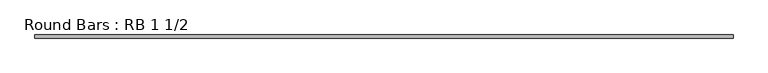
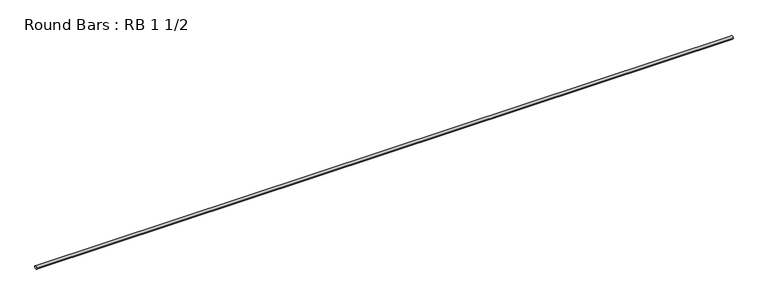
"""IFC4 building model written with IfcOpenShell, lengths in millimetres: member geometry, Round Bars : RB 1 1/2."""

from ifc_helpers import new_model, si_unit, point, frame, origin, origin_2d, place, context, project, spatial, circle_curve, trimmed, segment, composite_curve, outline, extrude, source, transform, mapped, element, save


def round_bars_rb_1_1_2_3159af7d(model_context):
    return source(origin(), model_context, "Body", "SweptSolid", [
        extrude(outline(composite_curve([segment(trimmed(circle_curve(origin_2d(), 19.05), [point((19.05, 0.0))], [point((-19.05, 0.0))], False, "CARTESIAN"), True, "CONTINUOUS"), segment(trimmed(circle_curve(origin_2d(), 19.05), [point((-19.05, 0.0))], [point((19.05, 0.0))], False, "CARTESIAN"), True, "CONTINUOUS")], self_intersect=False)), frame((-4252.1778516, 0.0, 0.0), z_axis=(1.0, 0.0, 0.0), x_axis=(0.0, 1.0, 0.0)), (0.0, 0.0, 1.0), 8471.0218102),
    ])


if __name__ == "__main__":
    model = new_model("IFC4")
    model_context = context("Model", 3, world=origin())
    ifc_project = project(units=[si_unit("LENGTHUNIT", "METRE", prefix="MILLI")], contexts=[model_context])
    site = spatial("IfcSite", under=ifc_project)
    building = spatial("IfcBuilding", under=site)
    placement = place(None, origin())
    round_bars_rb_1_1_2_shape = round_bars_rb_1_1_2_3159af7d(model_context)
    element("IfcMember", 1, ObjectType="Round Bars : RB 1 1/2", at=placement, inside=building, context=model_context, shape_type="MappedRepresentation", body=[
        mapped(round_bars_rb_1_1_2_shape, transform((0.0, 0.0, 0.0), x_axis=(1.0, 0.0, 0.0), y_axis=(0.0, 1.0, 0.0), z_axis=(0.0, 0.0, 1.0))),
    ])
    save(model, "model.ifc")
